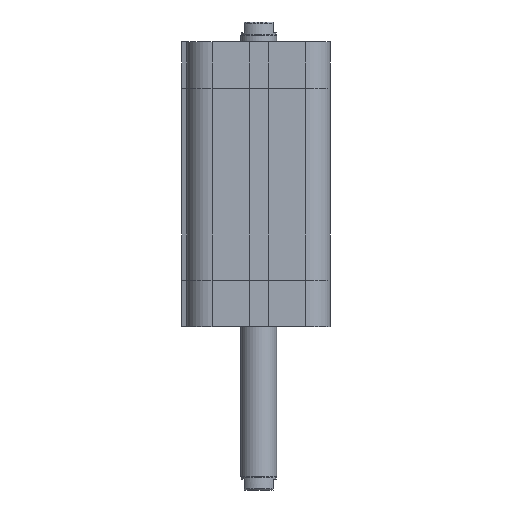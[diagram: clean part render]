
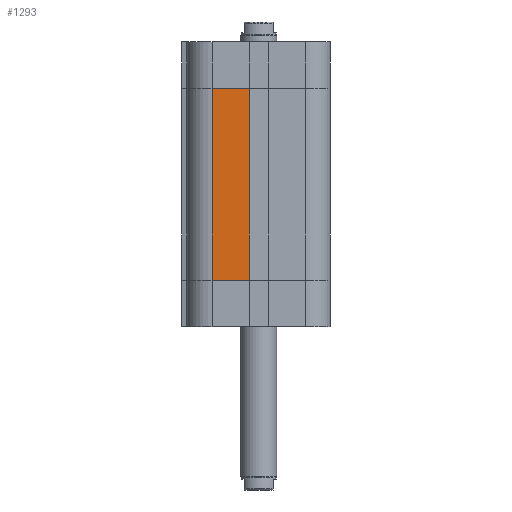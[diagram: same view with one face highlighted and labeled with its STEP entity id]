
A CAD part, left-side view. The second image highlights one B-rep face of the part: STEP entity #1293.
In plain terms, the highlighted planar face has unit normal (-1, 0, 0).
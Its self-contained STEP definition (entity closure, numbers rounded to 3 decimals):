
#1204=CARTESIAN_POINT('',(-20.,13.,13.));
#1205=VERTEX_POINT('',#1204);
#1213=CARTESIAN_POINT('',(-20.,13.,66.5));
#1214=VERTEX_POINT('',#1213);
#1215=CARTESIAN_POINT('',(-20.,13.,13.));
#1216=DIRECTION('',(0.0,0.0,1.0));
#1217=VECTOR('',#1216,53.5);
#1218=LINE('',#1215,#1217);
#1219=EDGE_CURVE('',#1205,#1214,#1218,.T.);
#1263=CARTESIAN_POINT('',(-20.0,2.6,0.0));
#1264=DIRECTION('',(-1.0,0.0,0.0));
#1265=DIRECTION('',(0.0,0.0,1.0));
#1266=AXIS2_PLACEMENT_3D('',#1263,#1264,#1265);
#1267=PLANE('',#1266);
#1268=CARTESIAN_POINT('',(-20.0,2.6,13.));
#1269=VERTEX_POINT('',#1268);
#1270=CARTESIAN_POINT('',(-20.,13.,13.));
#1271=DIRECTION('',(0.0,-1.0,0.0));
#1272=VECTOR('',#1271,10.4);
#1273=LINE('',#1270,#1272);
#1274=EDGE_CURVE('',#1205,#1269,#1273,.T.);
#1275=ORIENTED_EDGE('',*,*,#1274,.T.);
#1276=CARTESIAN_POINT('',(-20.0,2.6,66.5));
#1277=VERTEX_POINT('',#1276);
#1278=CARTESIAN_POINT('',(-20.0,2.6,13.));
#1279=DIRECTION('',(0.0,0.0,1.0));
#1280=VECTOR('',#1279,53.5);
#1281=LINE('',#1278,#1280);
#1282=EDGE_CURVE('',#1269,#1277,#1281,.T.);
#1283=ORIENTED_EDGE('',*,*,#1282,.T.);
#1284=CARTESIAN_POINT('',(-20.,13.,66.5));
#1285=DIRECTION('',(0.0,-1.0,0.0));
#1286=VECTOR('',#1285,10.4);
#1287=LINE('',#1284,#1286);
#1288=EDGE_CURVE('',#1214,#1277,#1287,.T.);
#1289=ORIENTED_EDGE('',*,*,#1288,.F.);
#1290=ORIENTED_EDGE('',*,*,#1219,.F.);
#1291=EDGE_LOOP('',(#1275,#1283,#1289,#1290));
#1292=FACE_OUTER_BOUND('',#1291,.T.);
#1293=ADVANCED_FACE('',(#1292),#1267,.T.);
